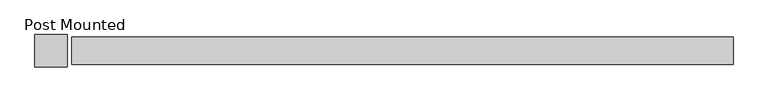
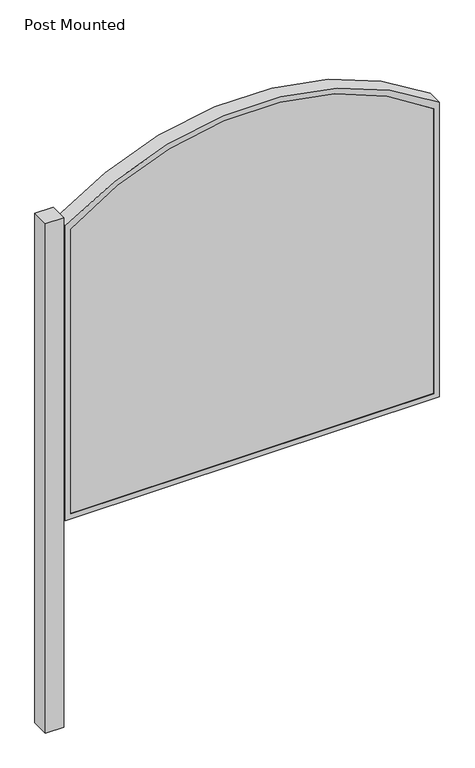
"""IFC4 building model written with IfcOpenShell, lengths in millimetres: proxy geometry."""

from ifc_helpers import new_model, si_unit, point, frame, frame_2d, origin, place, context, project, spatial, polyline, circle_curve, trimmed, segment, composite_curve, outline, extrude, source, transform, mapped, element, save


def post_mounted_f91466e1(model_context):
    return source(origin(), model_context, "Body", "SweptSolid", [
        extrude(outline(composite_curve([segment(polyline([(1803.4, -841.557955), (330.2, -841.557955), (330.2, -838.382955), (1802.9842172, -838.382955)]), True, "CONTINUOUS"), segment(trimmed(circle_curve(frame_2d((655.0311334, 47.442045)), 1449.9938666), [point((1802.9842172, -838.382955))], [point((1802.9842172, 933.267045))], True, "CARTESIAN"), True, "CONTINUOUS"), segment(polyline([(1802.9842172, 933.267045), (330.2, 933.267045), (330.2, 936.442045), (1803.4, 936.442045)]), True, "CONTINUOUS"), segment(trimmed(circle_curve(frame_2d((659.3416674, 47.442045)), 1448.8583328), [point((1803.4, 936.442045))], [point((1803.4, -841.557955))], False, "CARTESIAN"), True, "CONTINUOUS")], self_intersect=False)), frame((0.0, -31.75, 0.0), z_axis=(0.0, 1.0, 0.0), x_axis=(0.0, 0.0, 1.0)), (0.0, 0.0, 1.0), 63.5),
        extrude(outline(composite_curve([segment(polyline([(1803.4, -841.557955), (330.2, -841.557955), (330.2, 936.442045), (1803.4, 936.442045)]), True, "CONTINUOUS"), segment(trimmed(circle_curve(frame_2d((659.341666, 47.442045)), 1448.8583339), [point((1803.4, 936.442045))], [point((1803.4, -841.557955))], False, "CARTESIAN"), True, "CONTINUOUS")], self_intersect=False)), frame((0.0, -34.925, 0.0), z_axis=(0.0, 1.0, 0.0), x_axis=(0.0, 0.0, 1.0)), (0.0, 0.0, 1.0), 3.175),
        extrude(outline(composite_curve([segment(polyline([(1803.4, -841.557955), (330.2, -841.557955), (330.2, 936.442045), (1803.4, 936.442045)]), True, "CONTINUOUS"), segment(trimmed(circle_curve(frame_2d((659.341666, 47.442045)), 1448.8583339), [point((1803.4, 936.442045))], [point((1803.4, -841.557955))], False, "CARTESIAN"), True, "CONTINUOUS")], self_intersect=False)), frame((0.0, 31.75, 0.0), z_axis=(0.0, 1.0, 0.0), x_axis=(0.0, 0.0, 1.0)), (0.0, 0.0, 1.0), 3.175),
        extrude(outline(composite_curve([segment(polyline([(1828.8, -866.957955), (304.8, -866.957955), (304.8, 961.842045), (1828.8, 961.842045)]), True, "CONTINUOUS"), segment(trimmed(circle_curve(frame_2d((609.6016277, 47.442045)), 1523.9986978), [point((1828.8, 961.842045))], [point((1828.8, -866.957955))], False, "CARTESIAN"), True, "CONTINUOUS")], self_intersect=False), holes=[composite_curve([segment(trimmed(circle_curve(frame_2d((659.341666, 47.442045)), 1448.8583339), [point((1803.4, -841.557955))], [point((1803.4, 936.442045))], True, "CARTESIAN"), True, "CONTINUOUS"), segment(polyline([(1803.4, 936.442045), (330.2, 936.442045), (330.2, -841.557955), (1803.4, -841.557955)]), True, "CONTINUOUS")], self_intersect=False)]), frame((0.0, -38.1, 0.0), z_axis=(0.0, 1.0, 0.0), x_axis=(0.0, 0.0, 1.0)), (0.0, 0.0, 1.0), 76.2),
        extrude(outline(polyline([(-879.657955, 44.45), (-879.657955, -44.45), (-968.557955, -44.45), (-968.557955, 44.45), (-879.657955, 44.45)])), frame((0.0, 0.0, -755.65), z_axis=(0.0, 0.0, 1.0), x_axis=(1.0, 0.0, 0.0)), (0.0, 0.0, 1.0), 2635.25),
        extrude(outline(composite_curve([segment(polyline([(1803.4, -841.557955), (330.2, -841.557955), (330.2, 936.442045), (1803.4, 936.442045)]), True, "CONTINUOUS"), segment(trimmed(circle_curve(frame_2d((659.341666, 47.442045)), 1448.8583339), [point((1803.4, 936.442045))], [point((1803.4, -841.557955))], False, "CARTESIAN"), True, "CONTINUOUS")], self_intersect=False)), frame((0.0, -34.925, 0.0), z_axis=(0.0, 1.0, 0.0), x_axis=(0.0, 0.0, 1.0)), (0.0, 0.0, 1.0), 69.85),
    ])


if __name__ == "__main__":
    model = new_model("IFC4")
    model_context = context("Model", 3, world=origin())
    ifc_project = project(units=[si_unit("LENGTHUNIT", "METRE", prefix="MILLI")], contexts=[model_context])
    site = spatial("IfcSite", under=ifc_project)
    building = spatial("IfcBuilding", under=site)
    placement = place(None, origin())
    post_mounted_shape = post_mounted_f91466e1(model_context)
    element("IfcBuildingElementProxy", 1, Name="Post Mounted : Arch Top Double Layer 5x6 w/ LED on 4\" Direct Burried Post", ObjectType="Post Mounted : Arch Top Double Layer 5x6 w/ LED on 4\" Direct Burried Post", at=placement, inside=building, context=model_context, shape_type="MappedRepresentation", body=[
        mapped(post_mounted_shape, transform((0.0, 0.0, 0.0), x_axis=(1.0, 0.0, 0.0), y_axis=(0.0, 1.0, 0.0), z_axis=(0.0, 0.0, 1.0))),
    ])
    save(model, "model.ifc")
